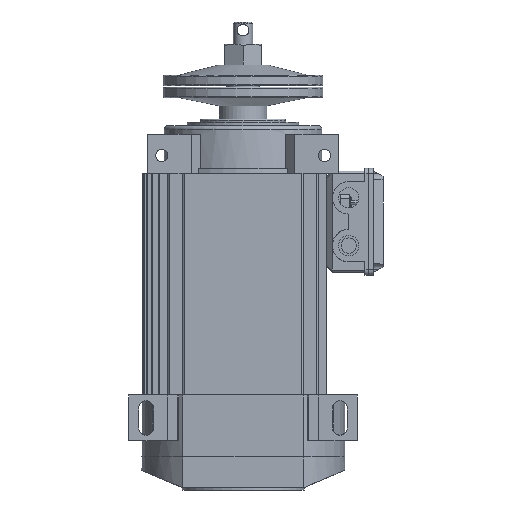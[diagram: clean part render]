
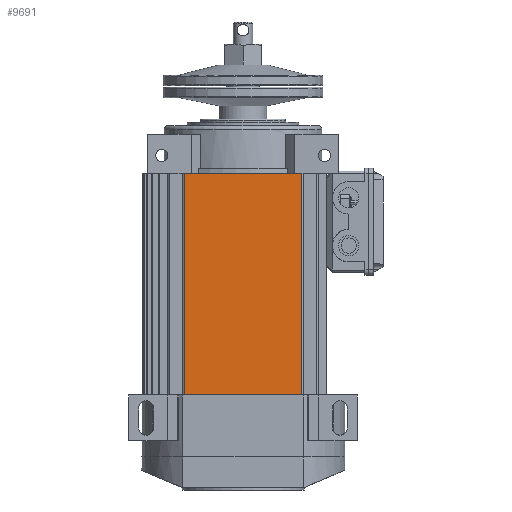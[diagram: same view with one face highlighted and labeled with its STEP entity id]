
A CAD part, front view. The second image highlights one B-rep face of the part: STEP entity #9691.
In plain terms, the highlighted planar face has unit normal (0, -1, 0).
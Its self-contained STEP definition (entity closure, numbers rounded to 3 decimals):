
#5993 = EDGE_CURVE ( 'NONE', #33582, #33560, #37685, .T. ) ;
#6063 = EDGE_CURVE ( 'NONE', #34172, #33582, #38193, .T. ) ;
#6166 = EDGE_CURVE ( 'NONE', #33560, #33604, #50208, .T. ) ;
#6284 = EDGE_CURVE ( 'NONE', #34172, #33604, #50647, .T. ) ;
#9691 = ADVANCED_FACE ( 'NONE', ( #42371 ), #51549, .T. ) ;
#14350 = EDGE_LOOP ( 'NONE', ( #26445, #26447, #26441, #26449 ) ) ;
#19383 = CARTESIAN_POINT ( 'NONE',  ( 57.626, -80.5, 0. ) ) ;
#19388 = CARTESIAN_POINT ( 'NONE',  ( -57.626, -80.5, 0. ) ) ;
#19394 = CARTESIAN_POINT ( 'NONE',  ( 57.626, -80.5, 217.5 ) ) ;
#19530 = CARTESIAN_POINT ( 'NONE',  ( -57.626, -80.5, 217.5 ) ) ;
#26441 = ORIENTED_EDGE ( 'NONE', *, *, #6284, .F. ) ;
#26445 = ORIENTED_EDGE ( 'NONE', *, *, #5993, .T. ) ;
#26447 = ORIENTED_EDGE ( 'NONE', *, *, #6166, .T. ) ;
#26449 = ORIENTED_EDGE ( 'NONE', *, *, #6063, .T. ) ;
#33560 = VERTEX_POINT ( 'NONE', #19383 ) ;
#33582 = VERTEX_POINT ( 'NONE', #19388 ) ;
#33604 = VERTEX_POINT ( 'NONE', #19394 ) ;
#34172 = VERTEX_POINT ( 'NONE', #19530 ) ;
#37685 = LINE ( 'NONE', #37687, #41804 ) ;
#37687 = CARTESIAN_POINT ( 'NONE',  ( -99., -80.5, 0. ) ) ;
#37689 = DIRECTION ( 'NONE',  ( 1., 0., 0. ) ) ;
#38193 = LINE ( 'NONE', #38195, #42992 ) ;
#38195 = CARTESIAN_POINT ( 'NONE',  ( -57.626, -80.5, 0. ) ) ;
#38197 = DIRECTION ( 'NONE',  ( 0., 0., -1. ) ) ;
#41783 = VECTOR ( 'NONE', #50210, 1000. ) ;
#41804 = VECTOR ( 'NONE', #37689, 1000. ) ;
#42043 = VECTOR ( 'NONE', #50649, 1000. ) ;
#42371 = FACE_OUTER_BOUND ( 'NONE', #14350, .T. ) ;
#42384 = AXIS2_PLACEMENT_3D ( 'NONE', #51550, #51551, #51552 ) ;
#42992 = VECTOR ( 'NONE', #38197, 1000. ) ;
#50208 = LINE ( 'NONE', #50209, #41783 ) ;
#50209 = CARTESIAN_POINT ( 'NONE',  ( 57.626, -80.5, 0. ) ) ;
#50210 = DIRECTION ( 'NONE',  ( 0., 0., 1. ) ) ;
#50647 = LINE ( 'NONE', #50648, #42043 ) ;
#50648 = CARTESIAN_POINT ( 'NONE',  ( -99., -80.5, 217.5 ) ) ;
#50649 = DIRECTION ( 'NONE',  ( 1., 0., 0. ) ) ;
#51549 = PLANE ( 'NONE',  #42384 ) ;
#51550 = CARTESIAN_POINT ( 'NONE',  ( -99., -80.5, 0. ) ) ;
#51551 = DIRECTION ( 'NONE',  ( 0., -1., 0. ) ) ;
#51552 = DIRECTION ( 'NONE',  ( 0., 0., -1. ) ) ;
